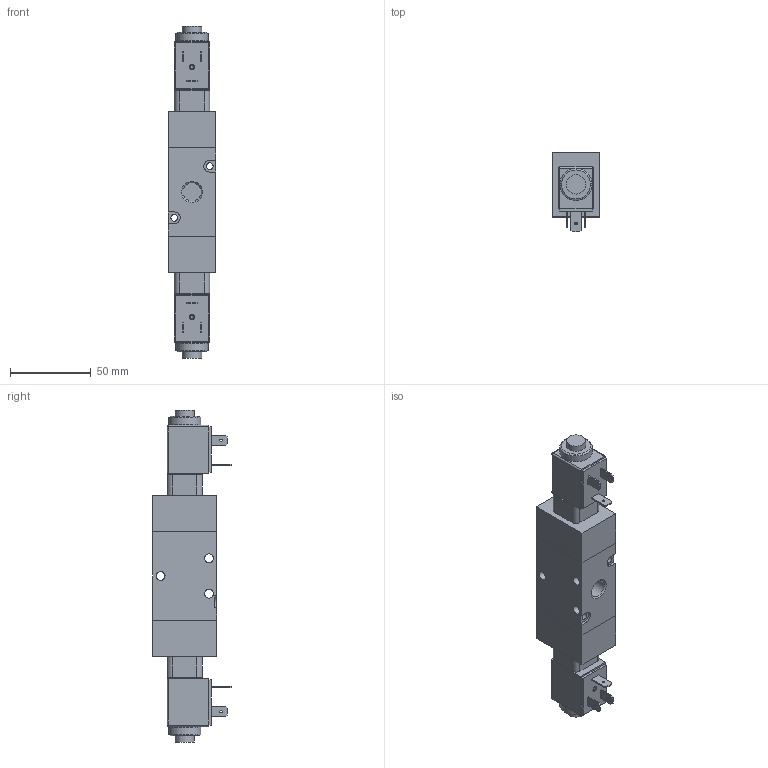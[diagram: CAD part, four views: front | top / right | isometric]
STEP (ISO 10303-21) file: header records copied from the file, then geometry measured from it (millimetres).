
FILE_DESCRIPTION(/* description */ (''),/* implementation_level */ '2;1');
FILE_NAME(/* name */ 'I:\Area Tecnica\Disegni\VARIE-3D\Componenti\T400\T424\T424_32_0_0_B#.stp',/* time_stamp */ '2015-09-23T13:45:46+02:00',/* author */ ('maniean1'),/* organization */ ('Pneumax S.p.A.'),/* preprocessor_version */ 'ST-DEVELOPER v15.2',/* originating_system */ 'Autodesk Inventor 2014',/* authorisation */ '');
FILE_SCHEMA (('AUTOMOTIVE_DESIGN { 1 0 10303 214 3 1 1 }'));
Length unit declared in the file: millimetre
Products named in the file (3): T424_32_0_0_M2; MB; T424_32_0_0_B#
Bounding box: 29.5 x 49 x 206 mm (x, y, z)
Volume: 164232.6 mm3; surface area: 42232 mm2
Topology: 11 solids, 11 shells, 202 faces, 440 edges, 285 vertices
Faces by surface type: plane 129, cylinder 60, cone 9, sphere 4
Full cylindrical faces by diameter (mm): 1.5 x4, 1.6 x2, 2.156 x2, 4.25 x2, 5.5 x3, 7.4 x2, 8 x2, 8.2 x4, 9.8 x2, 10.1 x2, 10.2 x2, 11.445 x3, 12 x2, 13 x2, 13.5 x2, 16.2 x2, 20 x2
Entity records: 4047 total; most frequent: DIRECTION 691, CARTESIAN_POINT 635, ORIENTED_EDGE 546, EDGE_CURVE 273, AXIS2_PLACEMENT_3D 260, EDGE_LOOP 233, VERTEX_POINT 204, LINE 171
